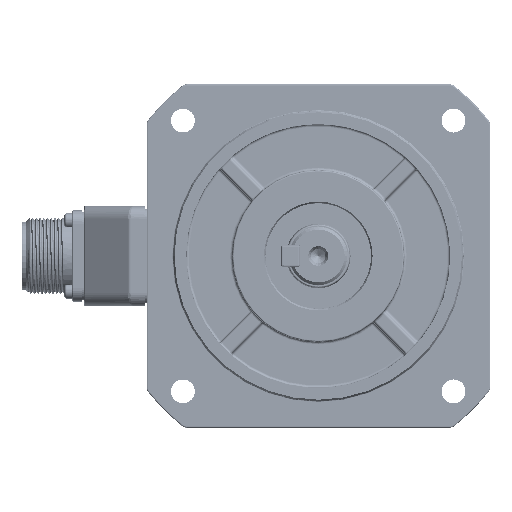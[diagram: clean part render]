
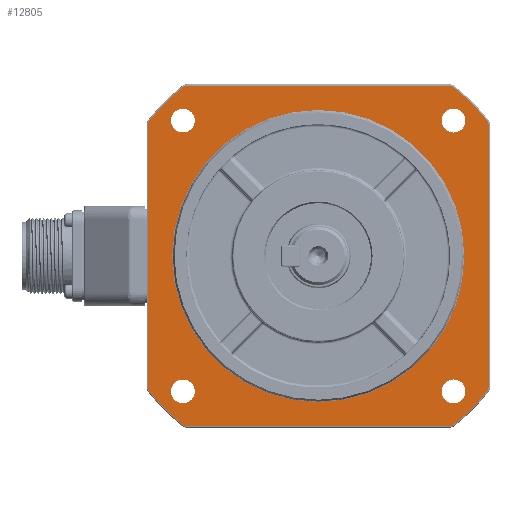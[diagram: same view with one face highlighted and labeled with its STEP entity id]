
A CAD part, left-side view. The second image highlights one B-rep face of the part: STEP entity #12805.
In plain terms, the highlighted planar face has unit normal (-1, 0, 0).
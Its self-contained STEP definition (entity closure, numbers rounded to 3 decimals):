
#2459=CARTESIAN_POINT('',(7.,51.265,-51.265));
#2460=DIRECTION('',(-1.,0.,0.));
#2461=DIRECTION('',(0.,0.,1.));
#2462=AXIS2_PLACEMENT_3D('',#2459,#2460,#2461);
#2464=CARTESIAN_POINT('',(7.,51.265,-51.265));
#2465=DIRECTION('',(-1.,0.,0.));
#2466=DIRECTION('',(0.,0.,-1.));
#2467=AXIS2_PLACEMENT_3D('',#2464,#2465,#2466);
#2469=CARTESIAN_POINT('',(7.,51.265,51.265));
#2470=DIRECTION('',(-1.,0.,0.));
#2471=DIRECTION('',(0.,-1.,0.));
#2472=AXIS2_PLACEMENT_3D('',#2469,#2470,#2471);
#2474=CARTESIAN_POINT('',(7.,51.265,51.265));
#2475=DIRECTION('',(-1.,0.,0.));
#2476=DIRECTION('',(0.,1.,0.));
#2477=AXIS2_PLACEMENT_3D('',#2474,#2475,#2476);
#2479=CARTESIAN_POINT('',(7.,-51.265,51.265));
#2480=DIRECTION('',(-1.,0.,0.));
#2481=DIRECTION('',(0.,0.,-1.));
#2482=AXIS2_PLACEMENT_3D('',#2479,#2480,#2481);
#2484=CARTESIAN_POINT('',(7.,-51.265,51.265));
#2485=DIRECTION('',(-1.,0.,0.));
#2486=DIRECTION('',(0.,0.,1.));
#2487=AXIS2_PLACEMENT_3D('',#2484,#2485,#2486);
#2489=CARTESIAN_POINT('',(7.,-51.265,-51.265));
#2490=DIRECTION('',(-1.,0.,0.));
#2491=DIRECTION('',(0.,1.,0.));
#2492=AXIS2_PLACEMENT_3D('',#2489,#2490,#2491);
#2494=CARTESIAN_POINT('',(7.,-51.265,-51.265));
#2495=DIRECTION('',(-1.,0.,0.));
#2496=DIRECTION('',(0.,-1.,0.));
#2497=AXIS2_PLACEMENT_3D('',#2494,#2495,#2496);
#2499=CARTESIAN_POINT('',(7.,0.,0.));
#2500=DIRECTION('',(-1.,0.,0.));
#2501=DIRECTION('',(0.,1.,0.));
#2502=AXIS2_PLACEMENT_3D('',#2499,#2500,#2501);
#2504=CARTESIAN_POINT('',(7.,0.,0.));
#2505=DIRECTION('',(-1.,0.,0.));
#2506=DIRECTION('',(0.,-1.,0.));
#2507=AXIS2_PLACEMENT_3D('',#2504,#2505,#2506);
#2509=CARTESIAN_POINT('',(7.,-49.762,62.));
#2510=DIRECTION('',(-1.,0.,0.));
#2511=DIRECTION('',(0.,-0.626,0.78));
#2512=AXIS2_PLACEMENT_3D('',#2509,#2510,#2511);
#2514=CARTESIAN_POINT('',(7.,0.,0.));
#2515=DIRECTION('',(-1.,0.,0.));
#2516=DIRECTION('',(0.,-0.78,0.626));
#2517=AXIS2_PLACEMENT_3D('',#2514,#2515,#2516);
#2519=CARTESIAN_POINT('',(7.,-62.,49.762));
#2520=DIRECTION('',(-1.,0.,0.));
#2521=DIRECTION('',(0.,-1.,0.));
#2522=AXIS2_PLACEMENT_3D('',#2519,#2520,#2521);
#2524=DIRECTION('',(0.,0.,1.));
#2525=VECTOR('',#2524,99.524);
#2526=CARTESIAN_POINT('',(7.,-64.5,-49.762));
#2527=LINE('',#2526,#2525);
#2528=CARTESIAN_POINT('',(7.,-62.,-49.762));
#2529=DIRECTION('',(-1.,0.,0.));
#2530=DIRECTION('',(0.,-0.78,-0.626));
#2531=AXIS2_PLACEMENT_3D('',#2528,#2529,#2530);
#2533=CARTESIAN_POINT('',(7.,0.,0.));
#2534=DIRECTION('',(-1.,0.,0.));
#2535=DIRECTION('',(0.,-0.626,-0.78));
#2536=AXIS2_PLACEMENT_3D('',#2533,#2534,#2535);
#2538=CARTESIAN_POINT('',(7.,-49.762,-62.));
#2539=DIRECTION('',(-1.,0.,0.));
#2540=DIRECTION('',(0.,0.,-1.));
#2541=AXIS2_PLACEMENT_3D('',#2538,#2539,#2540);
#2543=DIRECTION('',(0.,-1.,0.));
#2544=VECTOR('',#2543,99.524);
#2545=CARTESIAN_POINT('',(7.,49.762,-64.5));
#2546=LINE('',#2545,#2544);
#2547=CARTESIAN_POINT('',(7.,49.762,-62.));
#2548=DIRECTION('',(-1.,0.,0.));
#2549=DIRECTION('',(0.,0.626,-0.78));
#2550=AXIS2_PLACEMENT_3D('',#2547,#2548,#2549);
#2552=CARTESIAN_POINT('',(7.,0.,0.));
#2553=DIRECTION('',(-1.,0.,0.));
#2554=DIRECTION('',(0.,0.78,-0.626));
#2555=AXIS2_PLACEMENT_3D('',#2552,#2553,#2554);
#2557=CARTESIAN_POINT('',(7.,62.,-49.762));
#2558=DIRECTION('',(-1.,0.,0.));
#2559=DIRECTION('',(0.,1.,0.));
#2560=AXIS2_PLACEMENT_3D('',#2557,#2558,#2559);
#2562=DIRECTION('',(0.,0.,-1.));
#2563=VECTOR('',#2562,99.524);
#2564=CARTESIAN_POINT('',(7.,64.5,49.762));
#2565=LINE('',#2564,#2563);
#2566=CARTESIAN_POINT('',(7.,62.,49.762));
#2567=DIRECTION('',(-1.,0.,0.));
#2568=DIRECTION('',(0.,0.78,0.626));
#2569=AXIS2_PLACEMENT_3D('',#2566,#2567,#2568);
#2571=CARTESIAN_POINT('',(7.,0.,0.));
#2572=DIRECTION('',(-1.,0.,0.));
#2573=DIRECTION('',(0.,0.626,0.78));
#2574=AXIS2_PLACEMENT_3D('',#2571,#2572,#2573);
#2576=CARTESIAN_POINT('',(7.,49.762,62.));
#2577=DIRECTION('',(-1.,0.,0.));
#2578=DIRECTION('',(0.,0.,1.));
#2579=AXIS2_PLACEMENT_3D('',#2576,#2577,#2578);
#2581=DIRECTION('',(0.,1.,0.));
#2582=VECTOR('',#2581,99.524);
#2583=CARTESIAN_POINT('',(7.,-49.762,64.5));
#2584=LINE('',#2583,#2582);
#7391=CARTESIAN_POINT('',(7.,51.265,-46.765));
#7392=CARTESIAN_POINT('',(7.,51.265,-55.765));
#7393=VERTEX_POINT('',#7391);
#7394=VERTEX_POINT('',#7392);
#7399=CARTESIAN_POINT('',(7.,46.765,51.265));
#7400=CARTESIAN_POINT('',(7.,55.765,51.265));
#7401=VERTEX_POINT('',#7399);
#7402=VERTEX_POINT('',#7400);
#7407=CARTESIAN_POINT('',(7.,-51.265,46.765));
#7408=CARTESIAN_POINT('',(7.,-51.265,55.765));
#7409=VERTEX_POINT('',#7407);
#7410=VERTEX_POINT('',#7408);
#7415=CARTESIAN_POINT('',(7.,-46.765,-51.265));
#7416=CARTESIAN_POINT('',(7.,-55.765,-51.265));
#7417=VERTEX_POINT('',#7415);
#7418=VERTEX_POINT('',#7416);
#7537=CARTESIAN_POINT('',(7.,55.3,0.));
#7538=CARTESIAN_POINT('',(7.,-55.3,0.));
#7539=VERTEX_POINT('',#7537);
#7540=VERTEX_POINT('',#7538);
#8082=CARTESIAN_POINT('',(7.,-51.327,63.95));
#8083=CARTESIAN_POINT('',(7.,-49.762,64.5));
#8084=VERTEX_POINT('',#8082);
#8085=VERTEX_POINT('',#8083);
#8090=CARTESIAN_POINT('',(7.,49.762,64.5));
#8091=VERTEX_POINT('',#8090);
#8094=CARTESIAN_POINT('',(7.,51.327,63.95));
#8095=VERTEX_POINT('',#8094);
#8098=CARTESIAN_POINT('',(7.,63.95,51.327));
#8099=VERTEX_POINT('',#8098);
#8102=CARTESIAN_POINT('',(7.,64.5,49.762));
#8103=VERTEX_POINT('',#8102);
#8106=CARTESIAN_POINT('',(7.,64.5,-49.762));
#8107=VERTEX_POINT('',#8106);
#8110=CARTESIAN_POINT('',(7.,63.95,-51.327));
#8111=VERTEX_POINT('',#8110);
#8114=CARTESIAN_POINT('',(7.,51.327,-63.95));
#8115=VERTEX_POINT('',#8114);
#8118=CARTESIAN_POINT('',(7.,49.762,-64.5));
#8119=VERTEX_POINT('',#8118);
#8122=CARTESIAN_POINT('',(7.,-49.762,-64.5));
#8123=VERTEX_POINT('',#8122);
#8126=CARTESIAN_POINT('',(7.,-51.327,-63.95));
#8127=VERTEX_POINT('',#8126);
#8130=CARTESIAN_POINT('',(7.,-63.95,-51.327));
#8131=VERTEX_POINT('',#8130);
#8134=CARTESIAN_POINT('',(7.,-64.5,-49.762));
#8135=VERTEX_POINT('',#8134);
#8138=CARTESIAN_POINT('',(7.,-64.5,49.762));
#8139=VERTEX_POINT('',#8138);
#8142=CARTESIAN_POINT('',(7.,-63.95,51.327));
#8143=VERTEX_POINT('',#8142);
#12737=CARTESIAN_POINT('',(7.,0.,0.));
#12738=DIRECTION('',(-1.,0.,0.));
#12739=DIRECTION('',(0.,1.,0.));
#12740=AXIS2_PLACEMENT_3D('',#12737,#12738,#12739);
#12741=PLANE('',#12740);
#12743=ORIENTED_EDGE('',*,*,#12742,.F.);
#12745=ORIENTED_EDGE('',*,*,#12744,.F.);
#12747=ORIENTED_EDGE('',*,*,#12746,.F.);
#12749=ORIENTED_EDGE('',*,*,#12748,.F.);
#12751=ORIENTED_EDGE('',*,*,#12750,.F.);
#12753=ORIENTED_EDGE('',*,*,#12752,.F.);
#12755=ORIENTED_EDGE('',*,*,#12754,.F.);
#12757=ORIENTED_EDGE('',*,*,#12756,.F.);
#12759=ORIENTED_EDGE('',*,*,#12758,.F.);
#12761=ORIENTED_EDGE('',*,*,#12760,.F.);
#12763=ORIENTED_EDGE('',*,*,#12762,.F.);
#12765=ORIENTED_EDGE('',*,*,#12764,.F.);
#12767=ORIENTED_EDGE('',*,*,#12766,.F.);
#12769=ORIENTED_EDGE('',*,*,#12768,.F.);
#12771=ORIENTED_EDGE('',*,*,#12770,.F.);
#12773=ORIENTED_EDGE('',*,*,#12772,.F.);
#12774=EDGE_LOOP('',(#12743,#12745,#12747,#12749,#12751,#12753,#12755,#12757,
#12759,#12761,#12763,#12765,#12767,#12769,#12771,#12773));
#12775=FACE_OUTER_BOUND('',#12774,.F.);
#12777=ORIENTED_EDGE('',*,*,#12776,.T.);
#12779=ORIENTED_EDGE('',*,*,#12778,.T.);
#12780=EDGE_LOOP('',(#12777,#12779));
#12781=FACE_BOUND('',#12780,.F.);
#12783=ORIENTED_EDGE('',*,*,#12782,.T.);
#12785=ORIENTED_EDGE('',*,*,#12784,.T.);
#12786=EDGE_LOOP('',(#12783,#12785));
#12787=FACE_BOUND('',#12786,.F.);
#12789=ORIENTED_EDGE('',*,*,#12788,.T.);
#12791=ORIENTED_EDGE('',*,*,#12790,.T.);
#12792=EDGE_LOOP('',(#12789,#12791));
#12793=FACE_BOUND('',#12792,.F.);
#12794=ORIENTED_EDGE('',*,*,#12727,.T.);
#12796=ORIENTED_EDGE('',*,*,#12795,.T.);
#12797=EDGE_LOOP('',(#12794,#12796));
#12798=FACE_BOUND('',#12797,.F.);
#12800=ORIENTED_EDGE('',*,*,#12799,.T.);
#12802=ORIENTED_EDGE('',*,*,#12801,.T.);
#12803=EDGE_LOOP('',(#12800,#12802));
#12804=FACE_BOUND('',#12803,.F.);
#12805=ADVANCED_FACE('',(#12775,#12781,#12787,#12793,#12798,#12804),#12741,.T.);
#2463=CIRCLE('',#2462,4.5);
#2468=CIRCLE('',#2467,4.5);
#2473=CIRCLE('',#2472,4.5);
#2478=CIRCLE('',#2477,4.5);
#2483=CIRCLE('',#2482,4.5);
#2488=CIRCLE('',#2487,4.5);
#2493=CIRCLE('',#2492,4.5);
#2498=CIRCLE('',#2497,4.5);
#2503=CIRCLE('',#2502,55.3);
#2508=CIRCLE('',#2507,55.3);
#2513=CIRCLE('',#2512,2.5);
#2518=CIRCLE('',#2517,82.);
#2523=CIRCLE('',#2522,2.5);
#2532=CIRCLE('',#2531,2.5);
#2537=CIRCLE('',#2536,82.);
#2542=CIRCLE('',#2541,2.5);
#2551=CIRCLE('',#2550,2.5);
#2556=CIRCLE('',#2555,82.);
#2561=CIRCLE('',#2560,2.5);
#2570=CIRCLE('',#2569,2.5);
#2575=CIRCLE('',#2574,82.);
#2580=CIRCLE('',#2579,2.5);
#12727=EDGE_CURVE('',#7539,#7540,#2503,.T.);
#12742=EDGE_CURVE('',#8084,#8085,#2513,.T.);
#12744=EDGE_CURVE('',#8143,#8084,#2518,.T.);
#12746=EDGE_CURVE('',#8139,#8143,#2523,.T.);
#12748=EDGE_CURVE('',#8135,#8139,#2527,.T.);
#12750=EDGE_CURVE('',#8131,#8135,#2532,.T.);
#12752=EDGE_CURVE('',#8127,#8131,#2537,.T.);
#12754=EDGE_CURVE('',#8123,#8127,#2542,.T.);
#12756=EDGE_CURVE('',#8119,#8123,#2546,.T.);
#12758=EDGE_CURVE('',#8115,#8119,#2551,.T.);
#12760=EDGE_CURVE('',#8111,#8115,#2556,.T.);
#12762=EDGE_CURVE('',#8107,#8111,#2561,.T.);
#12764=EDGE_CURVE('',#8103,#8107,#2565,.T.);
#12766=EDGE_CURVE('',#8099,#8103,#2570,.T.);
#12768=EDGE_CURVE('',#8095,#8099,#2575,.T.);
#12770=EDGE_CURVE('',#8091,#8095,#2580,.T.);
#12772=EDGE_CURVE('',#8085,#8091,#2584,.T.);
#12776=EDGE_CURVE('',#7401,#7402,#2473,.T.);
#12778=EDGE_CURVE('',#7402,#7401,#2478,.T.);
#12782=EDGE_CURVE('',#7409,#7410,#2483,.T.);
#12784=EDGE_CURVE('',#7410,#7409,#2488,.T.);
#12788=EDGE_CURVE('',#7417,#7418,#2493,.T.);
#12790=EDGE_CURVE('',#7418,#7417,#2498,.T.);
#12795=EDGE_CURVE('',#7540,#7539,#2508,.T.);
#12799=EDGE_CURVE('',#7393,#7394,#2463,.T.);
#12801=EDGE_CURVE('',#7394,#7393,#2468,.T.);
